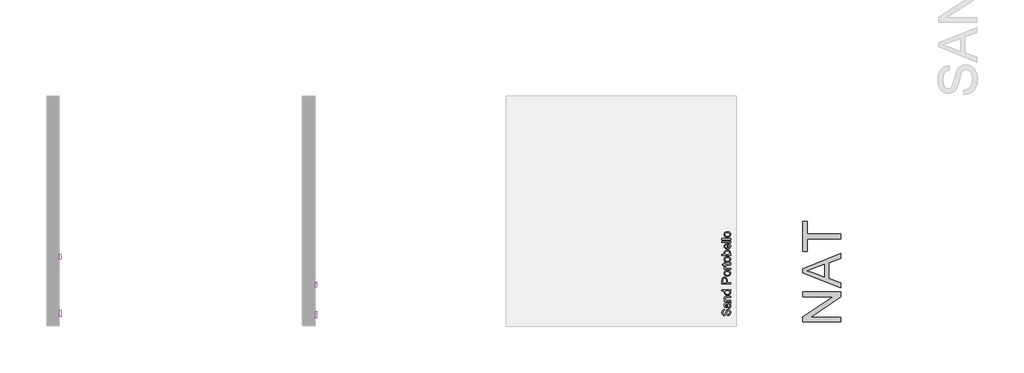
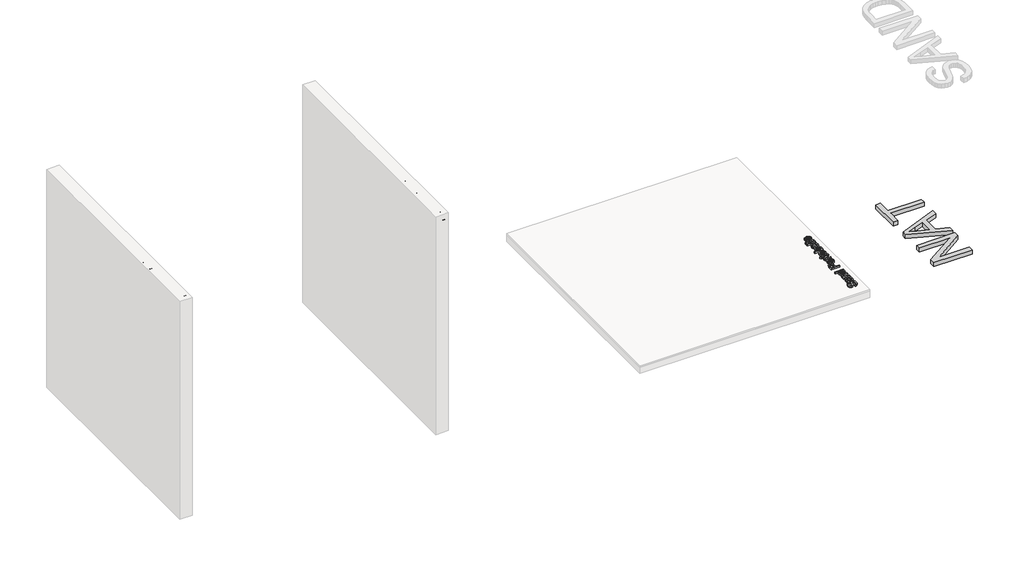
# One storey, part 2 of 12: 7 proxies.
"""IFC4 building model written with IfcOpenShell, lengths in millimetres."""

from ifc_helpers import new_model, si_unit, frame, origin, origin_with_axes, place, context, project, spatial, polyline, outline, extrude, element, save

model = new_model("IFC4")

# Units and contexts
model_context = context("Model", 3, world=origin())
ifc_project = project(units=[si_unit("LENGTHUNIT", "METRE", prefix="MILLI")], contexts=[model_context])

# Site, building, storey
site = spatial("IfcSite", under=ifc_project)
building = spatial("IfcBuilding", under=site)
storey = spatial("IfcBuildingStorey", under=building, Name="PORTOBELLO - SHOWROOM", Elevation=0.0)

# Proxies
placement = place(None, origin())
element("IfcBuildingElementProxy", 1, Name="10mm Arial", ObjectType="10mm Arial", at=placement, inside=storey, context=model_context, shape_type="SweptSolid", body=[
    extrude(outline(polyline([(-8722.8445085, 2553.4427872), (-8710.2874697, 2553.4427872), (-8706.2407678, 2540.8734857), (-8696.3570048, 2532.9272346), (-8681.2983685, 2529.8983395), (-8668.177244, 2532.1914706), (-8659.7036954, 2538.4945154), (-8656.9200549, 2546.9190131), (-8659.0047196, 2554.7548996), (-8667.5395819, 2560.4570705), (-8685.823317, 2565.2517992), (-8705.5050038, 2571.4444795), (-8716.1858444, 2580.7886821), (-8719.7052488, 2593.2721445), (-8715.3519785, 2607.4846523), (-8702.6355242, 2617.515568), (-8684.0206953, 2620.9368706), (-8664.1550675, 2617.3561525), (-8650.9113157, 2606.8347274), (-8645.932646, 2591.1139035), (-8658.4896848, 2591.1139035), (-8660.7950786, 2598.6064334), (-8665.60207, 2604.0142988), (-8683.5301859, 2608.3798318), (-8701.5073528, 2604.0633497), (-8707.14821, 2593.6400265), (-8703.150559, 2584.933486), (-8682.6472691, 2577.9192026), (-8660.4271966, 2571.6161577), (-8648.2748281, 2561.4380892), (-8644.3630162, 2547.2378442), (-8648.8634393, 2532.2159961), (-8661.8128855, 2521.2531126), (-8680.8078592, 2517.3413007), (-8703.2363981, 2521.5596809), (-8717.4243804, 2534.2638725), (-8722.8445085, 2553.4427872)])), frame((34348.7766485, 0.0, 0.0), z_axis=(1.0, 0.0, 0.0), x_axis=(0.0, 1.0, 0.0)), (0.0, 0.0, 1.0), 20.0),
    extrude(outline(polyline([(-8580.0081925, 2528.3287096), (-8592.1850865, 2519.8183728), (-8605.6373048, 2517.3413007), (-8616.1311387, 2518.8312228), (-8623.871989, 2523.300989), (-8628.6452579, 2530.0884118), (-8630.2363476, 2538.5313036), (-8627.8328519, 2548.4641175), (-8621.5175443, 2555.6746046), (-8612.7251646, 2559.794883), (-8601.860383, 2561.6833439), (-8580.0817689, 2565.9998259), (-8580.0081925, 2568.7957291), (-8583.4662832, 2578.0663554), (-8597.3476972, 2581.6961244), (-8610.0518888, 2579.280366), (-8616.1096789, 2570.7087155), (-8628.6667177, 2572.2783453), (-8623.2343269, 2584.5410785), (-8612.2959689, 2591.7270401), (-8595.7290164, 2594.2531632), (-8580.5109645, 2592.0213457), (-8571.9147886, 2586.4172767), (-8568.0642904, 2577.8946771), (-8567.4511537, 2566.9072682), (-8567.4511537, 2551.2845461), (-8566.8134916, 2529.4691438), (-8564.311894, 2518.9109306), (-8576.8689328, 2518.9109306), (-8580.0081925, 2528.3287096)]), holes=[polyline([(-8580.0081925, 2553.4427872), (-8600.2662277, 2549.592289), (-8611.0696956, 2547.5566752), (-8615.9625262, 2544.2457373), (-8617.6793088, 2539.4142204), (-8613.9391752, 2532.6206662), (-8602.964029, 2529.8983395), (-8590.2598374, 2532.9027091), (-8582.0683317, 2540.1745099), (-8580.0817689, 2549.8865946), (-8580.0081925, 2553.4427872)])]), frame((34348.7766485, 0.0, 0.0), z_axis=(1.0, 0.0, 0.0), x_axis=(0.0, 1.0, 0.0)), (0.0, 0.0, 1.0), 20.0),
    extrude(outline(polyline([(-8550.1852254, 2518.9109306), (-8550.1852254, 2592.6835333), (-8537.6281866, 2592.6835333), (-8537.6281866, 2582.3828375), (-8528.0264666, 2591.2855817), (-8514.9176048, 2594.2531632), (-8503.0595418, 2591.8619302), (-8494.9661379, 2585.5834108), (-8491.2014789, 2576.3495727), (-8490.5392913, 2564.2094669), (-8490.5392913, 2518.9109306), (-8503.09633, 2518.9109306), (-8503.09633, 2562.5172097), (-8504.5433325, 2573.627246), (-8509.6568923, 2579.5010952), (-8518.2775937, 2581.6961244), (-8531.9014903, 2576.7665057), (-8536.1965125, 2569.6234636), (-8537.6281866, 2558.0535748), (-8537.6281866, 2518.9109306), (-8550.1852254, 2518.9109306)])), frame((34348.7766485, 0.0, 0.0), z_axis=(1.0, 0.0, 0.0), x_axis=(0.0, 1.0, 0.0)), (0.0, 0.0, 1.0), 20.0),
    extrude(outline(polyline([(-8427.7540974, 2518.9109306), (-8427.7540974, 2530.7567308), (-8436.0620991, 2520.6951582), (-8447.5461488, 2517.3413007), (-8463.0952944, 2522.197343), (-8474.0827033, 2535.7476632), (-8477.9822525, 2555.7236555), (-8474.3892717, 2575.7119106), (-8463.6225919, 2589.4706972), (-8447.5951997, 2594.2531632), (-8436.0191796, 2590.8318606), (-8427.7540974, 2581.9413791), (-8427.7540974, 2619.3672407), (-8415.1970587, 2619.3672407), (-8415.1970587, 2518.9109306), (-8427.7540974, 2518.9109306)]), holes=[polyline([(-8465.4252137, 2555.7727065), (-8464.008868, 2544.4143499), (-8459.759831, 2536.3362744), (-8453.5855448, 2531.5078232), (-8446.3934518, 2529.8983395), (-8439.2044245, 2531.4342468), (-8433.1864882, 2536.0419688), (-8429.1121951, 2543.8073446), (-8427.7540974, 2554.8162133), (-8429.1367206, 2566.8520859), (-8433.2845901, 2575.1968758), (-8439.4558105, 2580.0713123), (-8446.9084866, 2581.6961244), (-8454.174156, 2580.1356916), (-8460.127713, 2575.4543932), (-8464.1008385, 2567.4131059), (-8465.4252137, 2555.7727065)])]), frame((34348.7766485, 0.0, 0.0), z_axis=(1.0, 0.0, 0.0), x_axis=(0.0, 1.0, 0.0)), (0.0, 0.0, 1.0), 20.0),
    extrude(outline(polyline([(-8355.5511245, 2518.9109306), (-8355.5511245, 2619.3672407), (-8342.9940857, 2619.3672407), (-8342.9940857, 2531.4679693), (-8292.7659307, 2531.4679693), (-8292.7659307, 2518.9109306), (-8355.5511245, 2518.9109306)])), frame((34348.7766485, 0.0, 0.0), z_axis=(1.0, 0.0, 0.0), x_axis=(0.0, 1.0, 0.0)), (0.0, 0.0, 1.0), 20.0),
    extrude(outline(polyline([(34368.7766485, -8267.6518531), (34368.7766485, -8280.2088919), (34348.7766485, -8280.2088919), (34348.7766485, -8267.6518531), (34368.7766485, -8267.6518531)])), frame((0.0, 0.0, 2606.8102019), z_axis=(0.0, 0.0, 1.0), x_axis=(1.0, 0.0, 0.0)), (0.0, 0.0, 1.0), 12.5570388),
    extrude(outline(polyline([(34368.7766485, -8267.6518531), (34368.7766485, -8280.2088919), (34348.7766485, -8280.2088919), (34348.7766485, -8267.6518531), (34368.7766485, -8267.6518531)])), frame((0.0, 0.0, 2518.9109306), z_axis=(0.0, 0.0, 1.0), x_axis=(1.0, 0.0, 0.0)), (0.0, 0.0, 1.0), 73.7726028),
    extrude(outline(polyline([(-8248.816295, 2518.9109306), (-8248.816295, 2592.6835333), (-8236.2592562, 2592.6835333), (-8236.2592562, 2582.3828375), (-8226.6575361, 2591.2855817), (-8213.5486744, 2594.2531632), (-8201.6906114, 2591.8619302), (-8193.5972075, 2585.5834108), (-8189.8325484, 2576.3495727), (-8189.1703608, 2564.2094669), (-8189.1703608, 2518.9109306), (-8201.7273996, 2518.9109306), (-8201.7273996, 2562.5172097), (-8203.1744021, 2573.627246), (-8208.2879618, 2579.5010952), (-8216.9086633, 2581.6961244), (-8230.5325598, 2576.7665057), (-8234.8275821, 2569.6234636), (-8236.2592562, 2558.0535748), (-8236.2592562, 2518.9109306), (-8248.816295, 2518.9109306)])), frame((34348.7766485, 0.0, 0.0), z_axis=(1.0, 0.0, 0.0), x_axis=(0.0, 1.0, 0.0)), (0.0, 0.0, 1.0), 20.0),
    extrude(outline(polyline([(-8120.2538004, 2540.8857484), (-8107.9420163, 2539.3161186), (-8112.37806, 2530.0393609), (-8119.4567227, 2523.1047853), (-8129.0185889, 2518.7821719), (-8140.904243, 2517.3413007), (-8155.637917, 2519.8275699), (-8166.9748138, 2527.2863773), (-8174.203695, 2539.2333451), (-8176.613322, 2555.1840953), (-8174.1791695, 2571.67134), (-8166.8767119, 2584.0015182), (-8155.6930993, 2591.6902519), (-8141.6154816, 2594.2531632), (-8127.9762566, 2591.6963833), (-8117.0777525, 2584.0260437), (-8109.9316447, 2571.720391), (-8107.5496088, 2555.2576717), (-8107.6231852, 2551.8731573), (-8164.0562833, 2551.8731573), (-8161.8827138, 2542.4737723), (-8156.8335334, 2535.5637222), (-8149.5464042, 2531.3146852), (-8140.6589884, 2529.8983395), (-8128.3472043, 2532.5225644), (-8120.2538004, 2540.8857484)]), holes=[polyline([(-8164.0562833, 2564.4301961), (-8120.1066476, 2564.4301961), (-8125.1343682, 2575.8100125), (-8132.4552199, 2580.2245964), (-8141.6645325, 2581.6961244), (-8157.127839, 2576.9994976), (-8161.9930784, 2571.5088588), (-8164.0562833, 2564.4301961)])]), frame((34348.7766485, 0.0, 0.0), z_axis=(1.0, 0.0, 0.0), x_axis=(0.0, 1.0, 0.0)), (0.0, 0.0, 1.0), 20.0),
])
element("IfcBuildingElementProxy", 2, Name="10mm Arial", ObjectType="10mm Arial", at=placement, inside=storey, context=model_context, shape_type="SweptSolid", body=[
    extrude(outline(polyline([(42185.4198665, -8714.1840479), (42185.4198665, -8701.6270091), (42197.989168, -8697.5803071), (42205.9354191, -8687.6965442), (42208.9643142, -8672.6379079), (42206.6711831, -8659.5167834), (42200.3681382, -8651.0432347), (42191.9436405, -8648.2595943), (42184.107754, -8650.344259), (42178.4055831, -8658.8791212), (42173.6108545, -8677.1628564), (42167.4181742, -8696.8445431), (42158.0739715, -8707.5253837), (42145.5905092, -8711.0447882), (42131.3780014, -8706.6915179), (42121.3470857, -8693.9750636), (42117.9257831, -8675.3602346), (42121.5065012, -8655.4946069), (42132.0279263, -8642.2508551), (42147.7487502, -8637.2721854), (42147.7487502, -8649.8292242), (42140.2562202, -8652.134618), (42134.8483549, -8656.9416094), (42130.4828219, -8674.8697253), (42134.799304, -8692.8468921), (42145.2226272, -8698.4877494), (42153.9291677, -8694.4900984), (42160.9434511, -8673.9868085), (42167.2464959, -8651.766736), (42177.4245645, -8639.6143674), (42191.6248095, -8635.7025555), (42206.6466576, -8640.2029786), (42217.6095411, -8653.1524249), (42221.521353, -8672.1473985), (42217.3029727, -8694.5759375), (42204.5987812, -8708.7639198), (42185.4198665, -8714.1840479)])), frame((0.0, 0.0, 17.0), z_axis=(0.0, 0.0, 1.0), x_axis=(1.0, 0.0, 0.0)), (0.0, 0.0, 1.0), 20.0),
    extrude(outline(polyline([(42210.533944, -8571.3477319), (42219.0442809, -8583.5246259), (42221.521353, -8596.9768442), (42220.0314309, -8607.4706781), (42215.5616646, -8615.2115284), (42208.7742418, -8619.9847973), (42200.33135, -8621.5758869), (42190.3985362, -8619.1723912), (42183.1880491, -8612.8570836), (42179.0677707, -8604.064704), (42177.1793098, -8593.1999224), (42172.8628277, -8571.4213083), (42170.0669246, -8571.3477319), (42160.7962983, -8574.8058226), (42157.1665293, -8588.6872366), (42159.5822877, -8601.3914281), (42168.1539382, -8607.4492183), (42166.5843083, -8620.0062571), (42154.3215752, -8614.5738663), (42147.1356135, -8603.6355083), (42144.6094905, -8587.0685558), (42146.8413079, -8571.8505039), (42152.445377, -8563.254328), (42160.9679765, -8559.4038297), (42171.9553855, -8558.7906931), (42187.5781075, -8558.7906931), (42209.3935098, -8558.153031), (42219.9517231, -8555.6514334), (42219.9517231, -8568.2084722), (42210.533944, -8571.3477319)]), holes=[polyline([(42185.4198665, -8571.3477319), (42189.2703647, -8591.6057671), (42191.3059784, -8602.409235), (42194.6169164, -8607.3020655), (42199.4484332, -8609.0188482), (42206.2419874, -8605.2787145), (42208.9643142, -8594.3035684), (42205.9599446, -8581.5993768), (42198.6881438, -8573.407871), (42188.9760591, -8571.4213083), (42185.4198665, -8571.3477319)])]), frame((0.0, 0.0, 17.0), z_axis=(0.0, 0.0, 1.0), x_axis=(1.0, 0.0, 0.0)), (0.0, 0.0, 1.0), 20.0),
    extrude(outline(polyline([(42219.9517231, -8541.5247648), (42146.1791203, -8541.5247648), (42146.1791203, -8528.967726), (42156.4798162, -8528.967726), (42147.5770719, -8519.3660059), (42144.6094905, -8506.2571442), (42147.0007235, -8494.3990812), (42153.2792428, -8486.3056773), (42162.5130809, -8482.5410182), (42174.6531868, -8481.8788306), (42219.9517231, -8481.8788306), (42219.9517231, -8494.4358694), (42176.3454439, -8494.4358694), (42165.2354077, -8495.8828719), (42159.3615585, -8500.9964316), (42157.1665293, -8509.6171331), (42162.096148, -8523.2410296), (42169.2391901, -8527.5360519), (42180.8090788, -8528.967726), (42219.9517231, -8528.967726), (42219.9517231, -8541.5247648)])), frame((0.0, 0.0, 17.0), z_axis=(0.0, 0.0, 1.0), x_axis=(1.0, 0.0, 0.0)), (0.0, 0.0, 1.0), 20.0),
    extrude(outline(polyline([(42219.9517231, -8419.0936368), (42208.1059229, -8419.0936368), (42218.1674954, -8427.4016385), (42221.521353, -8438.8856881), (42216.6653106, -8454.4348338), (42203.1149905, -8465.4222427), (42183.1389981, -8469.3217919), (42163.1507431, -8465.728811), (42149.3919564, -8454.9621313), (42144.6094905, -8438.9347391), (42148.0307931, -8427.3587189), (42156.9212746, -8419.0936368), (42119.495413, -8419.0936368), (42119.495413, -8406.536598), (42219.9517231, -8406.536598), (42219.9517231, -8419.0936368)]), holes=[polyline([(42183.0899472, -8456.7647531), (42194.4483038, -8455.3484074), (42202.5263793, -8451.0993704), (42207.3548305, -8444.9250842), (42208.9643142, -8437.7329912), (42207.4284069, -8430.5439639), (42202.8206849, -8424.5260276), (42195.0553091, -8420.4517345), (42184.0464404, -8419.0936368), (42172.0105678, -8420.47626), (42163.6657778, -8424.6241294), (42158.7913414, -8430.7953499), (42157.1665293, -8438.248026), (42158.7269621, -8445.5136954), (42163.4082605, -8451.4672524), (42171.4495477, -8455.4403779), (42183.0899472, -8456.7647531)])]), frame((0.0, 0.0, 17.0), z_axis=(0.0, 0.0, 1.0), x_axis=(1.0, 0.0, 0.0)), (0.0, 0.0, 1.0), 20.0),
])
element("IfcBuildingElementProxy", 3, Name="10mm Arial", ObjectType="10mm Arial", at=placement, inside=storey, context=model_context, shape_type="SweptSolid", body=[
    extrude(outline(polyline([(42219.9517231, -8334.4751583), (42119.495413, -8334.4751583), (42119.495413, -8297.2455004), (42120.4519061, -8282.235915), (42125.148533, -8270.0344955), (42134.8606176, -8262.1250326), (42148.5580906, -8259.1329257), (42160.3977595, -8261.153211), (42170.2631283, -8267.2140669), (42176.9217924, -8278.547898), (42179.1413471, -8296.3871091), (42179.1413471, -8321.9181195), (42219.9517231, -8321.9181195), (42219.9517231, -8334.4751583)]), holes=[polyline([(42166.5843083, -8321.9181195), (42166.5843083, -8295.6513451), (42161.9735207, -8277.1591435), (42156.4246339, -8273.0572592), (42148.999549, -8271.6899645), (42138.6007512, -8274.9150633), (42132.9108431, -8283.3886119), (42132.0524517, -8295.9456507), (42132.0524517, -8321.9181195), (42166.5843083, -8321.9181195)])]), frame((0.0, 0.0, 17.0), z_axis=(0.0, 0.0, 1.0), x_axis=(1.0, 0.0, 0.0)), (0.0, 0.0, 1.0), 20.0),
    extrude(outline(polyline([(42183.0654217, -8246.5758869), (42165.2783273, -8243.8596915), (42152.7764708, -8235.7111053), (42146.6512356, -8225.6434014), (42144.6094905, -8213.5891347), (42147.0957596, -8200.3974995), (42154.5545671, -8189.860746), (42166.3973017, -8182.9537616), (42182.0353521, -8180.6514334), (42204.378052, -8184.7226608), (42217.0209299, -8196.5807238), (42221.521353, -8213.5891347), (42219.0442809, -8226.9401854), (42211.6130646, -8237.4646762), (42199.5220096, -8244.2980842), (42183.0654217, -8246.5758869)]), holes=[polyline([(42183.0408963, -8234.0188482), (42194.4053842, -8232.5657143), (42202.5018538, -8228.2063126), (42207.3486991, -8221.6457504), (42208.9643142, -8213.5891347), (42207.339502, -8205.5693072), (42202.4650656, -8199.0210077), (42194.2612971, -8194.661606), (42182.6484888, -8193.2084722), (42171.6150946, -8194.6708031), (42163.6289896, -8199.0577959), (42158.7821444, -8205.6152925), (42157.1665293, -8213.5891347), (42158.776013, -8221.6457504), (42163.6044642, -8228.2063126), (42171.6825397, -8232.5657143), (42183.0408963, -8234.0188482)])]), frame((0.0, 0.0, 17.0), z_axis=(0.0, 0.0, 1.0), x_axis=(1.0, 0.0, 0.0)), (0.0, 0.0, 1.0), 20.0),
    extrude(outline(polyline([(42219.9517231, -8166.5247648), (42146.1791203, -8166.5247648), (42146.1791203, -8155.5373559), (42157.0929529, -8155.5373559), (42147.0375117, -8147.7382576), (42144.6094905, -8139.8901083), (42148.4845142, -8127.2840186), (42159.7417032, -8131.4778734), (42157.1665293, -8140.3070413), (42159.6436014, -8147.4071638), (42166.5107319, -8151.9321123), (42181.1769608, -8153.967726), (42219.9517231, -8153.967726), (42219.9517231, -8166.5247648)])), frame((0.0, 0.0, 17.0), z_axis=(0.0, 0.0, 1.0), x_axis=(1.0, 0.0, 0.0)), (0.0, 0.0, 1.0), 20.0),
    extrude(outline(polyline([(42209.479349, -8092.752162), (42220.3196051, -8091.1825322), (42221.521353, -8100.5757858), (42219.4366883, -8111.0972108), (42213.9675093, -8116.3456606), (42199.7182134, -8117.8662396), (42158.7361591, -8117.8662396), (42158.7361591, -8127.2840186), (42148.4845142, -8127.2840186), (42146.1791203, -8127.2840186), (42146.1791203, -8117.8662396), (42128.2510044, -8117.8662396), (42120.8688391, -8105.3092008), (42146.1791203, -8105.3092008), (42146.1791203, -8092.752162), (42158.7361591, -8092.752162), (42158.7361591, -8105.3092008), (42199.3503314, -8105.3092008), (42205.8250545, -8104.6470132), (42208.1181856, -8102.5010349), (42208.9643142, -8098.221341), (42209.479349, -8092.752162)])), frame((0.0, 0.0, 17.0), z_axis=(0.0, 0.0, 1.0), x_axis=(1.0, 0.0, 0.0)), (0.0, 0.0, 1.0), 20.0),
    extrude(outline(polyline([(42183.0654217, -8083.3343829), (42165.2783273, -8080.6181875), (42152.7764708, -8072.4696013), (42146.6512356, -8062.4018974), (42144.6094905, -8050.3476307), (42147.0957596, -8037.1559955), (42154.5545671, -8026.619242), (42166.3973017, -8019.7122576), (42182.0353521, -8017.4099294), (42204.378052, -8021.4811568), (42217.0209299, -8033.3392198), (42221.521353, -8050.3476307), (42219.0442809, -8063.6986814), (42211.6130646, -8074.2231722), (42199.5220096, -8081.0565803), (42183.0654217, -8083.3343829)]), holes=[polyline([(42183.0408963, -8070.7773442), (42194.4053842, -8069.3242103), (42202.5018538, -8064.9648086), (42207.3486991, -8058.4042464), (42208.9643142, -8050.3476307), (42207.339502, -8042.3278032), (42202.4650656, -8035.7795037), (42194.2612971, -8031.4201021), (42182.6484888, -8029.9669682), (42171.6150946, -8031.4292991), (42163.6289896, -8035.8162919), (42158.7821444, -8042.3737885), (42157.1665293, -8050.3476307), (42158.776013, -8058.4042464), (42163.6044642, -8064.9648086), (42171.6825397, -8069.3242103), (42183.0408963, -8070.7773442)])]), frame((0.0, 0.0, 17.0), z_axis=(0.0, 0.0, 1.0), x_axis=(1.0, 0.0, 0.0)), (0.0, 0.0, 1.0), 20.0),
    extrude(outline(polyline([(42219.9517231, -7990.726222), (42219.9517231, -8003.2832608), (42119.495413, -8003.2832608), (42119.495413, -7990.726222), (42156.7495963, -7990.726222), (42147.644517, -7981.9338423), (42144.6094905, -7971.0077471), (42147.34408, -7958.4261828), (42155.0328137, -7948.6650472), (42166.9889785, -7942.6685707), (42181.9617757, -7940.4980669), (42198.724932, -7942.7452128), (42211.1961316, -7949.4866504), (42218.9400476, -7959.3796103), (42221.521353, -7971.0813235), (42218.1920209, -7982.246542), (42208.2040247, -7990.726222), (42219.9517231, -7990.726222)]), holes=[polyline([(42182.5503869, -7990.726222), (42200.1106208, -7987.2926567), (42206.7508908, -7980.7137004), (42208.9643142, -7972.160444), (42207.3333707, -7964.9131687), (42202.4405401, -7958.7204884), (42194.3164794, -7954.4714514), (42182.9918453, -7953.0551057), (42171.5016643, -7954.4132034), (42163.4695741, -7958.4874965), (42158.7422905, -7964.4870387), (42157.1665293, -7971.6208837), (42158.7974728, -7978.868159), (42163.6903033, -7985.0608393), (42171.6672112, -7989.3098763), (42182.5503869, -7990.726222)])]), frame((0.0, 0.0, 17.0), z_axis=(0.0, 0.0, 1.0), x_axis=(1.0, 0.0, 0.0)), (0.0, 0.0, 1.0), 20.0),
    extrude(outline(polyline([(42197.9769053, -7874.7207662), (42199.5465351, -7862.4089821), (42208.8232928, -7866.8450258), (42215.7578684, -7873.9236886), (42220.0804818, -7883.4855547), (42221.521353, -7895.3712089), (42219.0350838, -7910.1048828), (42211.5762764, -7921.4417796), (42199.6293086, -7928.6706608), (42183.6785584, -7931.0802879), (42167.1913136, -7928.6461353), (42154.8611354, -7921.3436777), (42147.1724017, -7910.1600651), (42144.6094905, -7896.0824474), (42147.1662704, -7882.4432224), (42154.83661, -7871.5447183), (42167.1422627, -7864.3986106), (42183.604982, -7862.0165746), (42186.9894963, -7862.090151), (42186.9894963, -7918.5232491), (42196.3888813, -7916.3496796), (42203.2989315, -7911.3004993), (42207.5479685, -7904.0133701), (42208.9643142, -7895.1259542), (42206.3400893, -7882.8141701), (42197.9769053, -7874.7207662)]), holes=[polyline([(42174.4324576, -7918.5232491), (42174.4324576, -7874.5736134), (42163.0526412, -7879.601334), (42158.6380572, -7886.9221857), (42157.1665293, -7896.1314983), (42161.8631561, -7911.5948049), (42167.3537948, -7916.4600442), (42174.4324576, -7918.5232491)])]), frame((0.0, 0.0, 17.0), z_axis=(0.0, 0.0, 1.0), x_axis=(1.0, 0.0, 0.0)), (0.0, 0.0, 1.0), 20.0),
    extrude(outline(polyline([(42219.9517231, -7849.4595359), (42119.495413, -7849.4595359), (42119.495413, -7836.9024971), (42219.9517231, -7836.9024971), (42219.9517231, -7849.4595359)])), frame((0.0, 0.0, 17.0), z_axis=(0.0, 0.0, 1.0), x_axis=(1.0, 0.0, 0.0)), (0.0, 0.0, 1.0), 20.0),
    extrude(outline(polyline([(42219.9517231, -7818.066939), (42119.495413, -7818.066939), (42119.495413, -7805.5099002), (42219.9517231, -7805.5099002), (42219.9517231, -7818.066939)])), frame((0.0, 0.0, 17.0), z_axis=(0.0, 0.0, 1.0), x_axis=(1.0, 0.0, 0.0)), (0.0, 0.0, 1.0), 20.0),
    extrude(outline(polyline([(42183.0654217, -7789.8136017), (42165.2783273, -7787.0974063), (42152.7764708, -7778.9488201), (42146.6512356, -7768.8811162), (42144.6094905, -7756.8268495), (42147.0957596, -7743.6352143), (42154.5545671, -7733.0984608), (42166.3973017, -7726.1914763), (42182.0353521, -7723.8891482), (42204.378052, -7727.9603756), (42217.0209299, -7739.8184386), (42221.521353, -7756.8268495), (42219.0442809, -7770.1779002), (42211.6130646, -7780.702391), (42199.5220096, -7787.535799), (42183.0654217, -7789.8136017)]), holes=[polyline([(42183.0408963, -7777.256563), (42194.4053842, -7775.8034291), (42202.5018538, -7771.4440274), (42207.3486991, -7764.8834652), (42208.9643142, -7756.8268495), (42207.339502, -7748.807022), (42202.4650656, -7742.2587225), (42194.2612971, -7737.8993208), (42182.6484888, -7736.446187), (42171.6150946, -7737.9085179), (42163.6289896, -7742.2955107), (42158.7821444, -7748.8530072), (42157.1665293, -7756.8268495), (42158.776013, -7764.8834652), (42163.6044642, -7771.4440274), (42171.6825397, -7775.8034291), (42183.0408963, -7777.256563)])]), frame((0.0, 0.0, 17.0), z_axis=(0.0, 0.0, 1.0), x_axis=(1.0, 0.0, 0.0)), (0.0, 0.0, 1.0), 20.0),
])
element("IfcBuildingElementProxy", 4, Name="10mm Arial", ObjectType="10mm Arial", at=placement, inside=storey, context=model_context, shape_type="SweptSolid", body=[
    extrude(outline(polyline([(-8739.0158023, 2556.3927199), (-8726.4587635, 2556.3927199), (-8722.4120616, 2543.8234184), (-8712.5282987, 2535.8771673), (-8697.4696623, 2532.8482722), (-8684.3485378, 2535.1414033), (-8675.8749892, 2541.4444482), (-8673.0913488, 2549.8689459), (-8675.1760134, 2557.7048324), (-8683.7108757, 2563.4070033), (-8701.9946109, 2568.201732), (-8721.6762976, 2574.3944122), (-8732.3571382, 2583.7386149), (-8735.8765426, 2596.2220773), (-8731.5232723, 2610.434585), (-8718.806818, 2620.4655007), (-8700.1919891, 2623.8868033), (-8680.3263614, 2620.3060852), (-8667.0826095, 2609.7846602), (-8662.1039399, 2594.0638362), (-8674.6609786, 2594.0638362), (-8676.9663725, 2601.5563662), (-8681.7733639, 2606.9642315), (-8699.7014798, 2611.3297645), (-8717.6786466, 2607.0132825), (-8723.3195039, 2596.5899593), (-8719.3218528, 2587.8834187), (-8698.818563, 2580.8691353), (-8676.5984905, 2574.5660905), (-8664.4461219, 2564.388022), (-8660.53431, 2550.1877769), (-8665.0347331, 2535.1659288), (-8677.9841793, 2524.2030453), (-8696.979153, 2520.2912335), (-8719.407692, 2524.5096137), (-8733.5956743, 2537.2138052), (-8739.0158023, 2556.3927199)])), frame((37348.7766485, 0.0, 0.0), z_axis=(1.0, 0.0, 0.0), x_axis=(0.0, 1.0, 0.0)), (0.0, 0.0, 1.0), 20.0),
    extrude(outline(polyline([(-8596.1794863, 2531.2786424), (-8608.3563804, 2522.7683056), (-8621.8085987, 2520.2912335), (-8632.3024326, 2521.7811555), (-8640.0432829, 2526.2509218), (-8644.8165518, 2533.0383446), (-8646.4076414, 2541.4812364), (-8644.0041457, 2551.4140503), (-8637.6888381, 2558.6245374), (-8628.8964584, 2562.7448157), (-8618.0316768, 2564.6332766), (-8596.2530627, 2568.9497587), (-8596.1794863, 2571.7456619), (-8599.6375771, 2581.0162881), (-8613.518991, 2584.6460572), (-8626.2231826, 2582.2302987), (-8632.2809728, 2573.6586482), (-8644.8380116, 2575.2282781), (-8639.4056208, 2587.4910112), (-8628.4672628, 2594.6769729), (-8611.9003102, 2597.2030959), (-8596.6822584, 2594.9712785), (-8588.0860824, 2589.3672094), (-8584.2355842, 2580.8446099), (-8583.6224476, 2569.8572009), (-8583.6224476, 2554.2344789), (-8582.9847854, 2532.4190766), (-8580.4831879, 2521.8608633), (-8593.0402266, 2521.8608633), (-8596.1794863, 2531.2786424)]), holes=[polyline([(-8596.1794863, 2556.3927199), (-8616.4375215, 2552.5422217), (-8627.2409894, 2550.506608), (-8632.13382, 2547.19567), (-8633.8506026, 2542.3641532), (-8630.110469, 2535.570599), (-8619.1353228, 2532.8482722), (-8606.4311313, 2535.8526419), (-8598.2396255, 2543.1244426), (-8596.2530627, 2552.8365273), (-8596.1794863, 2556.3927199)])]), frame((37348.7766485, 0.0, 0.0), z_axis=(1.0, 0.0, 0.0), x_axis=(0.0, 1.0, 0.0)), (0.0, 0.0, 1.0), 20.0),
    extrude(outline(polyline([(-8566.3565192, 2521.8608633), (-8566.3565192, 2595.6334661), (-8553.7994805, 2595.6334661), (-8553.7994805, 2585.3327702), (-8544.1977604, 2594.2355145), (-8531.0888986, 2597.2030959), (-8519.2308357, 2594.811863), (-8511.1374318, 2588.5333436), (-8507.3727727, 2579.2995055), (-8506.7105851, 2567.1593996), (-8506.7105851, 2521.8608633), (-8519.2676239, 2521.8608633), (-8519.2676239, 2565.4671425), (-8520.7146264, 2576.5771787), (-8525.8281861, 2582.4510279), (-8534.4488875, 2584.6460572), (-8548.0727841, 2579.7164384), (-8552.3678064, 2572.5733963), (-8553.7994805, 2561.0035076), (-8553.7994805, 2521.8608633), (-8566.3565192, 2521.8608633)])), frame((37348.7766485, 0.0, 0.0), z_axis=(1.0, 0.0, 0.0), x_axis=(0.0, 1.0, 0.0)), (0.0, 0.0, 1.0), 20.0),
    extrude(outline(polyline([(-8443.9253913, 2521.8608633), (-8443.9253913, 2533.7066636), (-8452.233393, 2523.645091), (-8463.7174426, 2520.2912335), (-8479.2665883, 2525.1472758), (-8490.2539972, 2538.697596), (-8494.1535463, 2558.6735883), (-8490.5605655, 2578.6618434), (-8479.7938858, 2592.42063), (-8463.7664935, 2597.2030959), (-8452.1904734, 2593.7817934), (-8443.9253913, 2584.8913118), (-8443.9253913, 2622.3171735), (-8431.3683525, 2622.3171735), (-8431.3683525, 2521.8608633), (-8443.9253913, 2521.8608633)]), holes=[polyline([(-8481.5965076, 2558.7226392), (-8480.1801619, 2547.3642826), (-8475.9311248, 2539.2862071), (-8469.7568387, 2534.457756), (-8462.5647457, 2532.8482722), (-8455.3757184, 2534.3841796), (-8449.357782, 2538.9919015), (-8445.283489, 2546.7572773), (-8443.9253913, 2557.766146), (-8445.3080144, 2569.8020186), (-8449.4558839, 2578.1468086), (-8455.6271044, 2583.021245), (-8463.0797805, 2584.6460572), (-8470.3454499, 2583.0856244), (-8476.2990068, 2578.404326), (-8480.2721324, 2570.3630387), (-8481.5965076, 2558.7226392)])]), frame((37348.7766485, 0.0, 0.0), z_axis=(1.0, 0.0, 0.0), x_axis=(0.0, 1.0, 0.0)), (0.0, 0.0, 1.0), 20.0),
])
element("IfcBuildingElementProxy", 5, Name="10mm Arial Narrow", ObjectType="10mm Arial Narrow", at=placement, inside=storey, context=model_context, shape_type="SweptSolid", body=[
    extrude(outline(polyline([(-8051.0005598, 2518.9109306), (-8051.0005598, 2619.6295343), (-8019.7036751, 2619.6295343), (-8003.4079736, 2617.7512136), (-7991.9349875, 2608.2707704), (-7987.6453091, 2591.2516616), (-7989.4316175, 2579.175836), (-7994.7905427, 2569.5494423), (-8004.5343315, 2563.2481839), (-8019.4752307, 2561.1477644), (-8041.2535982, 2561.1477644), (-8041.2535982, 2518.9109306), (-8051.0005598, 2518.9109306)]), holes=[polyline([(-8041.2535982, 2572.5192197), (-8018.2822432, 2572.5192197), (-8002.4180478, 2577.0500339), (-7997.3922707, 2590.7186246), (-7999.8670852, 2600.884401), (-8005.844714, 2606.6843509), (-8018.5106876, 2608.258079), (-8041.2535982, 2608.258079), (-8041.2535982, 2572.5192197)])]), frame((34348.7766485, 0.0, 0.0), z_axis=(1.0, 0.0, 0.0), x_axis=(0.0, 1.0, 0.0)), (0.0, 0.0, 1.0), 20.0),
    extrude(outline(polyline([(-7979.522841, 2555.4620368), (-7977.5683722, 2572.0528123), (-7971.7049655, 2584.0048971), (-7962.8463988, 2591.2294517), (-7951.9064497, 2593.6376366), (-7941.0934141, 2591.2294517), (-7932.2094647, 2584.0048971), (-7926.2699099, 2572.2431827), (-7924.2900583, 2556.2235181), (-7926.2350087, 2539.0616316), (-7932.0698598, 2526.9191764), (-7940.9189079, 2519.6946218), (-7951.9064497, 2517.2864369), (-7962.7670778, 2519.7009675), (-7971.6415088, 2526.9445591), (-7977.552508, 2538.9029896), (-7979.522841, 2555.4620368)]), holes=[polyline([(-7969.7758794, 2555.4874195), (-7968.4718425, 2542.9356681), (-7964.5597319, 2534.06441), (-7958.7185352, 2528.7911515), (-7951.6272398, 2527.0333986), (-7944.9071667, 2528.8070156), (-7939.2150934, 2534.1278668), (-7935.3315383, 2543.014989), (-7934.03702, 2555.4874195), (-7935.3410568, 2568.0010968), (-7939.2531674, 2576.8596635), (-7945.0943642, 2582.1329221), (-7952.1856595, 2583.8906749), (-7958.9533253, 2582.1234035), (-7964.6358801, 2576.8215894), (-7968.4908796, 2567.9535042), (-7969.7758794, 2555.4874195)])]), frame((34348.7766485, 0.0, 0.0), z_axis=(1.0, 0.0, 0.0), x_axis=(0.0, 1.0, 0.0)), (0.0, 0.0, 1.0), 20.0),
    extrude(outline(polyline([(-7852.8123395, 2527.0333986), (-7851.1878459, 2517.2864369), (-7858.5488326, 2517.2864369), (-7866.8235969, 2519.4058935), (-7871.1386581, 2525.2058433), (-7872.3062628, 2539.8516685), (-7872.3062628, 2582.2661813), (-7880.4287309, 2582.2661813), (-7880.4287309, 2585.5151685), (-7882.0532245, 2580.6416877), (-7889.6172729, 2582.2661813), (-7895.6964325, 2579.9436631), (-7899.5672962, 2573.45838), (-7901.5471478, 2558.0510734), (-7901.5471478, 2518.9109306), (-7911.2941095, 2518.9109306), (-7911.2941095, 2592.013143), (-7901.5471478, 2592.013143), (-7901.5471478, 2582.3169467), (-7895.3030005, 2591.4039579), (-7888.9065569, 2593.6376366), (-7880.4287309, 2592.013143), (-7872.3062628, 2592.013143), (-7872.3062628, 2608.258079), (-7862.5593012, 2616.3805471), (-7862.5593012, 2592.013143), (-7852.8123395, 2592.013143), (-7852.8123395, 2582.2661813), (-7862.5593012, 2582.2661813), (-7862.5593012, 2537.6179898), (-7861.696289, 2529.6224353), (-7857.0766353, 2527.0333986), (-7852.8123395, 2527.0333986)])), frame((34348.7766485, 0.0, 0.0), z_axis=(1.0, 0.0, 0.0), x_axis=(0.0, 1.0, 0.0)), (0.0, 0.0, 1.0), 20.0),
    extrude(outline(polyline([(-7846.3143651, 2555.4620368), (-7844.3598962, 2572.0528123), (-7838.4964896, 2584.0048971), (-7829.6379229, 2591.2294517), (-7818.6979737, 2593.6376366), (-7807.8849382, 2591.2294517), (-7799.0009887, 2584.0048971), (-7793.061434, 2572.2431827), (-7791.0815824, 2556.2235181), (-7793.0265328, 2539.0616316), (-7798.8613838, 2526.9191764), (-7807.710432, 2519.6946218), (-7818.6979737, 2517.2864369), (-7829.5586019, 2519.7009675), (-7838.4330328, 2526.9445591), (-7844.344032, 2538.9029896), (-7846.3143651, 2555.4620368)]), holes=[polyline([(-7836.5674034, 2555.4874195), (-7835.2633666, 2542.9356681), (-7831.351256, 2534.06441), (-7825.5100593, 2528.7911515), (-7818.4187639, 2527.0333986), (-7811.6986907, 2528.8070156), (-7806.0066174, 2534.1278668), (-7802.1230624, 2543.014989), (-7800.828544, 2555.4874195), (-7802.1325809, 2568.0010968), (-7806.0446915, 2576.8596635), (-7811.8858882, 2582.1329221), (-7818.9771836, 2583.8906749), (-7825.7448493, 2582.1234035), (-7831.4274041, 2576.8215894), (-7835.2824036, 2567.9535042), (-7836.5674034, 2555.4874195)])]), frame((34348.7766485, 0.0, 0.0), z_axis=(1.0, 0.0, 0.0), x_axis=(0.0, 1.0, 0.0)), (0.0, 0.0, 1.0), 20.0),
    extrude(outline(polyline([(-7768.3386719, 2518.9109306), (-7778.0856335, 2518.9109306), (-7778.0856335, 2619.6295343), (-7768.3386719, 2619.6295343), (-7768.3386719, 2584.2206502), (-7760.9396111, 2591.302427), (-7751.7383778, 2593.6376366), (-7738.8566511, 2589.4367976), (-7729.5792697, 2576.7073672), (-7726.101838, 2556.0204564), (-7728.034097, 2539.566113), (-7733.830874, 2527.3633739), (-7742.2039964, 2519.8056712), (-7751.8652914, 2517.2864369), (-7761.2061296, 2519.9008564), (-7768.3386719, 2527.6679664), (-7768.3386719, 2518.9109306)]), holes=[polyline([(-7768.3386719, 2556.0204564), (-7766.2572894, 2538.7729032), (-7760.3685001, 2530.0412501), (-7751.9160568, 2527.0333986), (-7745.9733292, 2528.8228798), (-7740.7349719, 2534.1913236), (-7735.8487997, 2555.614333), (-7740.5572929, 2577.0500339), (-7745.8019959, 2582.1805147), (-7752.1191185, 2583.8906749), (-7758.0967473, 2582.1011937), (-7763.3890429, 2576.73275), (-7768.3386719, 2556.0204564)])]), frame((34348.7766485, 0.0, 0.0), z_axis=(1.0, 0.0, 0.0), x_axis=(0.0, 1.0, 0.0)), (0.0, 0.0, 1.0), 20.0),
    extrude(outline(polyline([(-7674.1180426, 2541.6538411), (-7664.3710809, 2540.0293475), (-7668.0706113, 2530.1427809), (-7673.8895981, 2523.02293), (-7681.5932514, 2518.7205602), (-7690.946781, 2517.2864369), (-7702.540335, 2519.7009675), (-7711.6844573, 2526.9445591), (-7717.624012, 2538.7506933), (-7719.6038636, 2554.8528517), (-7717.6144935, 2571.5197753), (-7711.6463832, 2583.7003046), (-7702.6323474, 2591.1533036), (-7691.5052007, 2593.6376366), (-7680.8222515, 2591.2389702), (-7672.0747342, 2584.0429712), (-7666.2398831, 2572.3034666), (-7664.2949328, 2556.2742836), (-7664.3710809, 2553.0252963), (-7709.856902, 2553.0252963), (-7703.8538904, 2533.5821385), (-7697.9238542, 2528.6705836), (-7690.8198675, 2527.0333986), (-7680.6413997, 2530.6885092), (-7674.1180426, 2541.6538411)]), holes=[polyline([(-7709.1969514, 2562.772258), (-7674.1180426, 2562.772258), (-7678.3823383, 2577.0373425), (-7684.2076708, 2582.1773418), (-7691.4290526, 2583.8906749), (-7703.6381374, 2578.1795646), (-7709.1969514, 2562.772258)])]), frame((34348.7766485, 0.0, 0.0), z_axis=(1.0, 0.0, 0.0), x_axis=(0.0, 1.0, 0.0)), (0.0, 0.0, 1.0), 20.0),
    extrude(outline(polyline([(34368.7766485, -7641.6281704), (34368.7766485, -7651.375132), (34348.7766485, -7651.375132), (34348.7766485, -7641.6281704), (34368.7766485, -7641.6281704)])), frame((0.0, 0.0, 2518.9109306), z_axis=(0.0, 0.0, 1.0), x_axis=(1.0, 0.0, 0.0)), (0.0, 0.0, 1.0), 100.7186038),
    extrude(outline(polyline([(34368.7766485, -7615.6362726), (34368.7766485, -7625.3832343), (34348.7766485, -7625.3832343), (34348.7766485, -7615.6362726), (34368.7766485, -7615.6362726)])), frame((0.0, 0.0, 2518.9109306), z_axis=(0.0, 0.0, 1.0), x_axis=(1.0, 0.0, 0.0)), (0.0, 0.0, 1.0), 100.7186038),
    extrude(outline(polyline([(-7604.2648174, 2555.4620368), (-7602.3103485, 2572.0528123), (-7596.4469419, 2584.0048971), (-7587.5883752, 2591.2294517), (-7576.648426, 2593.6376366), (-7565.8353904, 2591.2294517), (-7556.951441, 2584.0048971), (-7551.0118863, 2572.2431827), (-7549.0320347, 2556.2235181), (-7550.976985, 2539.0616316), (-7556.8118361, 2526.9191764), (-7565.6608843, 2519.6946218), (-7576.648426, 2517.2864369), (-7587.5090542, 2519.7009675), (-7596.3834851, 2526.9445591), (-7602.2944843, 2538.9029896), (-7604.2648174, 2555.4620368)]), holes=[polyline([(-7594.5178557, 2555.4874195), (-7593.2138189, 2542.9356681), (-7589.3017083, 2534.06441), (-7583.4605115, 2528.7911515), (-7576.3692162, 2527.0333986), (-7569.649143, 2528.8070156), (-7563.9570697, 2534.1278668), (-7560.0735147, 2543.014989), (-7558.7789963, 2555.4874195), (-7560.0830332, 2568.0010968), (-7563.9951438, 2576.8596635), (-7569.8363405, 2582.1329221), (-7576.9276359, 2583.8906749), (-7583.6953016, 2582.1234035), (-7589.3778564, 2576.8215894), (-7593.2328559, 2567.9535042), (-7594.5178557, 2555.4874195)])]), frame((34348.7766485, 0.0, 0.0), z_axis=(1.0, 0.0, 0.0), x_axis=(0.0, 1.0, 0.0)), (0.0, 0.0, 1.0), 20.0),
])
element("IfcBuildingElementProxy", 6, Name="10mm Arial Narrow", ObjectType="10mm Arial Narrow", at=placement, inside=storey, context=model_context, shape_type="SweptSolid", body=[
    extrude(outline(polyline([(-8377.1718537, 2521.8608633), (-8377.1718537, 2622.5794671), (-8345.874969, 2622.5794671), (-8329.5792675, 2620.7011463), (-8318.1062813, 2611.2207032), (-8313.8166029, 2594.2015943), (-8315.6029113, 2582.1257688), (-8320.9618365, 2572.499375), (-8330.7056253, 2566.1981166), (-8345.6465246, 2564.0976971), (-8367.424892, 2564.0976971), (-8367.424892, 2521.8608633), (-8377.1718537, 2521.8608633)]), holes=[polyline([(-8367.424892, 2575.4691524), (-8344.4535371, 2575.4691524), (-8328.5893417, 2579.9999666), (-8323.5635646, 2593.6685574), (-8326.038379, 2603.8343338), (-8332.0160079, 2609.6342836), (-8344.6819815, 2611.2080118), (-8367.424892, 2611.2080118), (-8367.424892, 2575.4691524)])]), frame((37348.7766485, 0.0, 0.0), z_axis=(1.0, 0.0, 0.0), x_axis=(0.0, 1.0, 0.0)), (0.0, 0.0, 1.0), 20.0),
    extrude(outline(polyline([(-8305.6941349, 2558.4119695), (-8303.739666, 2575.0027451), (-8297.8762594, 2586.9548299), (-8289.0176927, 2594.1793845), (-8278.0777435, 2596.5875693), (-8267.2647079, 2594.1793845), (-8258.3807585, 2586.9548299), (-8252.4412037, 2575.1931154), (-8250.4613522, 2559.1734509), (-8252.4063025, 2542.0115643), (-8258.2411536, 2529.8691091), (-8267.0902018, 2522.6445546), (-8278.0777435, 2520.2363697), (-8288.9383717, 2522.6509002), (-8297.8128026, 2529.8944919), (-8303.7238018, 2541.8529224), (-8305.6941349, 2558.4119695)]), holes=[polyline([(-8295.9471732, 2558.4373522), (-8294.6431363, 2545.8856008), (-8290.7310258, 2537.0143428), (-8284.889829, 2531.7410842), (-8277.7985337, 2529.9833314), (-8271.0784605, 2531.7569484), (-8265.3863872, 2537.0777995), (-8261.5028322, 2545.9649218), (-8260.2083138, 2558.4373522), (-8261.5123507, 2570.9510296), (-8265.4244613, 2579.8095963), (-8271.265658, 2585.0828548), (-8278.3569534, 2586.8406077), (-8285.1246191, 2585.0733363), (-8290.8071739, 2579.7715222), (-8294.6621734, 2570.903437), (-8295.9471732, 2558.4373522)])]), frame((37348.7766485, 0.0, 0.0), z_axis=(1.0, 0.0, 0.0), x_axis=(0.0, 1.0, 0.0)), (0.0, 0.0, 1.0), 20.0),
    extrude(outline(polyline([(-8178.9836334, 2529.9833314), (-8177.3591398, 2520.2363697), (-8184.7201264, 2520.2363697), (-8192.9948907, 2522.3558262), (-8197.3099519, 2528.155776), (-8198.4775567, 2542.8016012), (-8198.4775567, 2585.2161141), (-8206.6000247, 2585.2161141), (-8206.6000247, 2588.4651013), (-8208.2245183, 2583.5916204), (-8215.7885667, 2585.2161141), (-8221.8677264, 2582.8935958), (-8225.73859, 2576.4083128), (-8227.7184416, 2561.0010062), (-8227.7184416, 2521.8608633), (-8237.4654033, 2521.8608633), (-8237.4654033, 2594.9630757), (-8227.7184416, 2594.9630757), (-8227.7184416, 2585.2668795), (-8221.4742943, 2594.3538906), (-8215.0778507, 2596.5875693), (-8206.6000247, 2594.9630757), (-8198.4775567, 2594.9630757), (-8198.4775567, 2611.2080118), (-8188.730595, 2619.3304798), (-8188.730595, 2594.9630757), (-8178.9836334, 2594.9630757), (-8178.9836334, 2585.2161141), (-8188.730595, 2585.2161141), (-8188.730595, 2540.5679225), (-8187.8675828, 2532.572368), (-8183.2479291, 2529.9833314), (-8178.9836334, 2529.9833314)])), frame((37348.7766485, 0.0, 0.0), z_axis=(1.0, 0.0, 0.0), x_axis=(0.0, 1.0, 0.0)), (0.0, 0.0, 1.0), 20.0),
    extrude(outline(polyline([(-8172.4856589, 2558.4119695), (-8170.5311901, 2575.0027451), (-8164.6677834, 2586.9548299), (-8155.8092167, 2594.1793845), (-8144.8692676, 2596.5875693), (-8134.056232, 2594.1793845), (-8125.1722826, 2586.9548299), (-8119.2327278, 2575.1931154), (-8117.2528762, 2559.1734509), (-8119.1978266, 2542.0115643), (-8125.0326777, 2529.8691091), (-8133.8817258, 2522.6445546), (-8144.8692676, 2520.2363697), (-8155.7298958, 2522.6509002), (-8164.6043267, 2529.8944919), (-8170.5153259, 2541.8529224), (-8172.4856589, 2558.4119695)]), holes=[polyline([(-8162.7386973, 2558.4373522), (-8161.4346604, 2545.8856008), (-8157.5225498, 2537.0143428), (-8151.6813531, 2531.7410842), (-8144.5900577, 2529.9833314), (-8137.8699846, 2531.7569484), (-8132.1779113, 2537.0777995), (-8128.2943562, 2545.9649218), (-8126.9998379, 2558.4373522), (-8128.3038747, 2570.9510296), (-8132.2159853, 2579.8095963), (-8138.0571821, 2585.0828548), (-8145.1484774, 2586.8406077), (-8151.9161432, 2585.0733363), (-8157.598698, 2579.7715222), (-8161.4536975, 2570.903437), (-8162.7386973, 2558.4373522)])]), frame((37348.7766485, 0.0, 0.0), z_axis=(1.0, 0.0, 0.0), x_axis=(0.0, 1.0, 0.0)), (0.0, 0.0, 1.0), 20.0),
    extrude(outline(polyline([(-8094.5099657, 2521.8608633), (-8104.2569274, 2521.8608633), (-8104.2569274, 2622.5794671), (-8094.5099657, 2622.5794671), (-8094.5099657, 2587.1705829), (-8087.110905, 2594.2523598), (-8077.9096716, 2596.5875693), (-8065.027945, 2592.3867304), (-8055.7505635, 2579.6573), (-8052.2731319, 2558.9703892), (-8054.2053909, 2542.5160457), (-8060.0021679, 2530.3133066), (-8068.3752902, 2522.7556039), (-8078.0365852, 2520.2363697), (-8087.3774235, 2522.8507891), (-8094.5099657, 2530.6178992), (-8094.5099657, 2521.8608633)]), holes=[polyline([(-8094.5099657, 2558.9703892), (-8092.4285833, 2541.7228359), (-8086.5397939, 2532.9911828), (-8078.0873506, 2529.9833314), (-8072.144623, 2531.7728126), (-8066.9062657, 2537.1412563), (-8062.0200935, 2558.5642658), (-8066.7285867, 2579.9999666), (-8071.9732897, 2585.1304474), (-8078.2904123, 2586.8406077), (-8084.2680412, 2585.0511264), (-8089.5603367, 2579.6826827), (-8094.5099657, 2558.9703892)])]), frame((37348.7766485, 0.0, 0.0), z_axis=(1.0, 0.0, 0.0), x_axis=(0.0, 1.0, 0.0)), (0.0, 0.0, 1.0), 20.0),
    extrude(outline(polyline([(-8000.2893364, 2544.6037738), (-7990.5423747, 2542.9792802), (-7994.2419051, 2533.0927137), (-8000.060892, 2525.9728628), (-8007.7645453, 2521.670493), (-8017.1180749, 2520.2363697), (-8028.7116289, 2522.6509002), (-8037.8557511, 2529.8944919), (-8043.7953059, 2541.7006261), (-8045.7751574, 2557.8027844), (-8043.7857873, 2574.4697081), (-8037.817677, 2586.6502373), (-8028.8036412, 2594.1032363), (-8017.6764945, 2596.5875693), (-8006.9935454, 2594.188903), (-7998.246028, 2586.9929039), (-7992.411177, 2575.2533993), (-7990.4662266, 2559.2242163), (-7990.5423747, 2555.9752291), (-8036.0281958, 2555.9752291), (-8030.0251842, 2536.5320712), (-8024.095148, 2531.6205163), (-8016.9911613, 2529.9833314), (-8006.8126935, 2533.638442), (-8000.2893364, 2544.6037738)]), holes=[polyline([(-8035.3682453, 2565.7221907), (-8000.2893364, 2565.7221907), (-8004.5536321, 2579.9872753), (-8010.3789647, 2585.1272746), (-8017.6003464, 2586.8406077), (-8029.8094312, 2581.1294973), (-8035.3682453, 2565.7221907)])]), frame((37348.7766485, 0.0, 0.0), z_axis=(1.0, 0.0, 0.0), x_axis=(0.0, 1.0, 0.0)), (0.0, 0.0, 1.0), 20.0),
    extrude(outline(polyline([(37368.7766485, -7967.7994642), (37368.7766485, -7977.5464259), (37348.7766485, -7977.5464259), (37348.7766485, -7967.7994642), (37368.7766485, -7967.7994642)])), frame((0.0, 0.0, 2521.8608633), z_axis=(0.0, 0.0, 1.0), x_axis=(1.0, 0.0, 0.0)), (0.0, 0.0, 1.0), 100.7186038),
    extrude(outline(polyline([(37368.7766485, -7941.8075665), (37368.7766485, -7951.5545281), (37348.7766485, -7951.5545281), (37348.7766485, -7941.8075665), (37368.7766485, -7941.8075665)])), frame((0.0, 0.0, 2521.8608633), z_axis=(0.0, 0.0, 1.0), x_axis=(1.0, 0.0, 0.0)), (0.0, 0.0, 1.0), 100.7186038),
    extrude(outline(polyline([(-7930.4361112, 2558.4119695), (-7928.4816423, 2575.0027451), (-7922.6182357, 2586.9548299), (-7913.759669, 2594.1793845), (-7902.8197199, 2596.5875693), (-7892.0066843, 2594.1793845), (-7883.1227348, 2586.9548299), (-7877.1831801, 2575.1931154), (-7875.2033285, 2559.1734509), (-7877.1482789, 2542.0115643), (-7882.9831299, 2529.8691091), (-7891.8321781, 2522.6445546), (-7902.8197199, 2520.2363697), (-7913.680348, 2522.6509002), (-7922.5547789, 2529.8944919), (-7928.4657781, 2541.8529224), (-7930.4361112, 2558.4119695)]), holes=[polyline([(-7920.6891496, 2558.4373522), (-7919.3851127, 2545.8856008), (-7915.4730021, 2537.0143428), (-7909.6318054, 2531.7410842), (-7902.54051, 2529.9833314), (-7895.8204368, 2531.7569484), (-7890.1283635, 2537.0777995), (-7886.2448085, 2545.9649218), (-7884.9502902, 2558.4373522), (-7886.254327, 2570.9510296), (-7890.1664376, 2579.8095963), (-7896.0076343, 2585.0828548), (-7903.0989297, 2586.8406077), (-7909.8665954, 2585.0733363), (-7915.5491502, 2579.7715222), (-7919.4041497, 2570.903437), (-7920.6891496, 2558.4373522)])]), frame((37348.7766485, 0.0, 0.0), z_axis=(1.0, 0.0, 0.0), x_axis=(0.0, 1.0, 0.0)), (0.0, 0.0, 1.0), 20.0),
])
element("IfcBuildingElementProxy", 7, Name="450mm Arial", ObjectType="450mm Arial", at=placement, inside=storey, context=model_context, shape_type="SweptSolid", body=[
    extrude(outline(polyline([(43514.4179057, -8782.9511615), (43064.7617629, -8782.9511615), (43064.7617629, -8722.7920877), (43420.9956944, -8487.8643178), (43064.7617629, -8487.8643178), (43064.7617629, -8431.6573), (43514.4179057, -8431.6573), (43514.4179057, -8491.8163738), (43158.0741949, -8726.7441437), (43514.4179057, -8726.7441437), (43514.4179057, -8782.9511615)])), origin_with_axes(), (0.0, 0.0, 1.0), 50.0),
    extrude(outline(polyline([(43514.4179057, -8385.65976), (43064.7617629, -8206.1705526), (43064.7617629, -8158.3067639), (43514.4179057, -7978.8175565), (43514.4179057, -8038.208175), (43373.9003611, -8089.6946816), (43373.9003611, -8274.8924142), (43514.4179057, -8326.2691415), (43514.4179057, -8385.65976)]), holes=[polyline([(43317.6933432, -8254.2538999), (43317.6933432, -8110.2234166), (43207.1455562, -8150.73199), (43120.9687807, -8182.2386582), (43197.484975, -8210.2323878), (43317.6933432, -8254.2538999)])]), origin_with_axes(), (0.0, 0.0, 1.0), 50.0),
    extrude(outline(polyline([(43514.4179057, -7806.3542264), (43120.9687807, -7806.3542264), (43120.9687807, -7953.8976482), (43064.7617629, -7953.8976482), (43064.7617629, -7602.6037866), (43120.9687807, -7602.6037866), (43120.9687807, -7750.1472085), (43514.4179057, -7750.1472085), (43514.4179057, -7806.3542264)])), origin_with_axes(), (0.0, 0.0, 1.0), 50.0),
])

save(model, "model.ifc")
